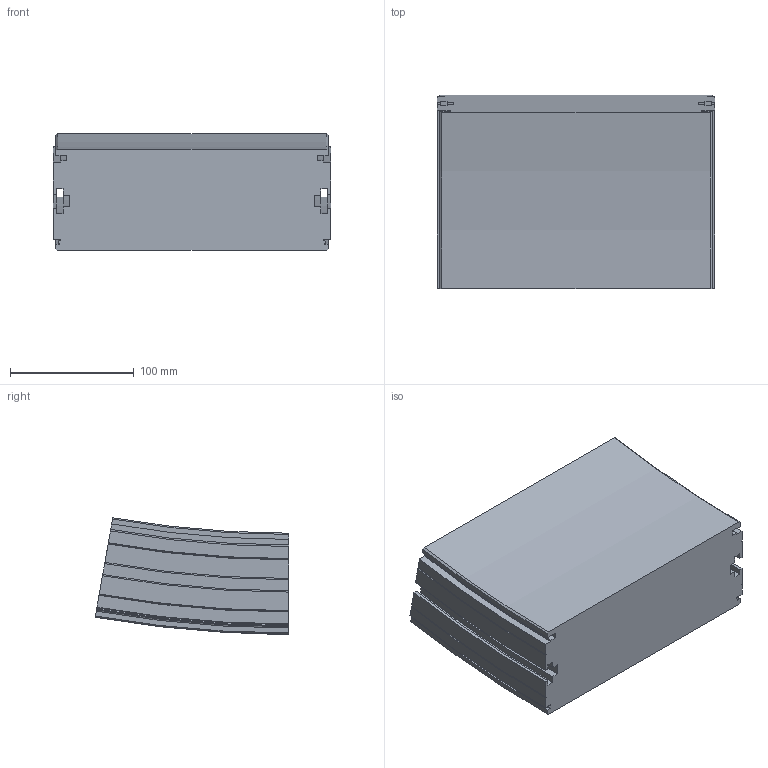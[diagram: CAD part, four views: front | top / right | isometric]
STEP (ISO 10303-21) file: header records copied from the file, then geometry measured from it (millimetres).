
FILE_DESCRIPTION(/* description */ ('VERTIKALKURVA S220 R860'),/* implementation_level */ '2;1');
FILE_NAME(/* name */ '\\carryline.intra\privat\users\mathias\Desktop\Tillfälliga filer\220-5695+220-2000-NER-01.stp',/* time_stamp */ '2018-11-29T14:41:14+01:00',/* author */ ('MD'),/* organization */ ('CARRYLINE'),/* preprocessor_version */ 'ST-DEVELOPER v17',/* originating_system */ 'Autodesk Inventor 2018',/* authorisation */ '');
FILE_SCHEMA (('AUTOMOTIVE_DESIGN { 1 0 10303 214 3 1 1 }'));
Length unit declared in the file: millimetre
Products named in the file (1): 220-5695+220-2000-NER-01
Bounding box: 224 x 156.2 x 93.93 mm (x, y, z)
Volume: 2652576.3 mm3; surface area: 148218.1 mm2
Topology: 1 solids, 1 shells, 113 faces, 318 edges, 212 vertices
Faces by surface type: plane 48, cylinder 31, bspline 14, cone 14, torus 6
Entity records: 8328 total; most frequent: CARTESIAN_POINT 5360, ORIENTED_EDGE 636, DIRECTION 576, EDGE_CURVE 318, VERTEX_POINT 212, AXIS2_PLACEMENT_3D 199, LINE 178, VECTOR 178
